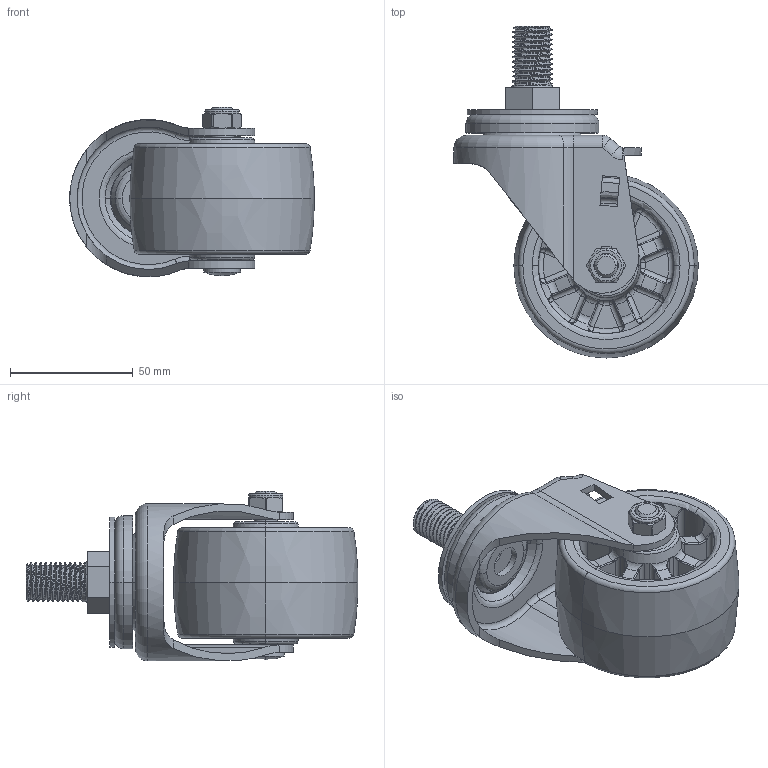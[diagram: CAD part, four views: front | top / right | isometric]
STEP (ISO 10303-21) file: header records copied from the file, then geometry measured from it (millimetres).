
FILE_DESCRIPTION((''),'2;1');
FILE_NAME('6233-03_ASM','2023-01-10T',('lenovo'),(''),'PRO/ENGINEER BY PARAMETRIC TECHNOLOGY CORPORATION, 2010280','PRO/ENGINEER BY PARAMETRIC TECHNOLOGY CORPORATION, 2010280','');
FILE_SCHEMA(('CONFIG_CONTROL_DESIGN'));
Length unit declared in the file: millimetre
Products named in the file (8): 623-11; 620-03; 620-08; 620-33; 623-903; 620-23M16X25; 570-34; 6233-03_ASM
Assembly tree (7 placements, depth 2):
  6233-03_ASM
    623-11
    620-03
    620-08
    620-33
    623-903
    620-23M16X25
    570-34
Bounding box: 99.5 x 135 x 68.93 mm (x, y, z)
Volume: 198074.8 mm3; surface area: 66804.4 mm2
Topology: 7 solids, 7 shells, 847 faces, 2060 edges, 1171 vertices
Faces by surface type: cylinder 241, bspline 211, torus 140, plane 112, cone 73, sphere 70
Entity records: 35996 total; most frequent: CARTESIAN_POINT 18234, ORIENTED_EDGE 3988, DIRECTION 3326, EDGE_CURVE 1994, AXIS2_PLACEMENT_3D 1443, VERTEX_POINT 1171, EDGE_LOOP 873, FACE_OUTER_BOUND 847
